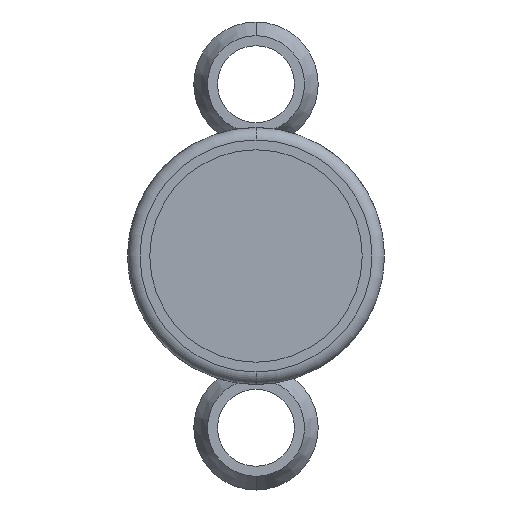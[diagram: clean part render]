
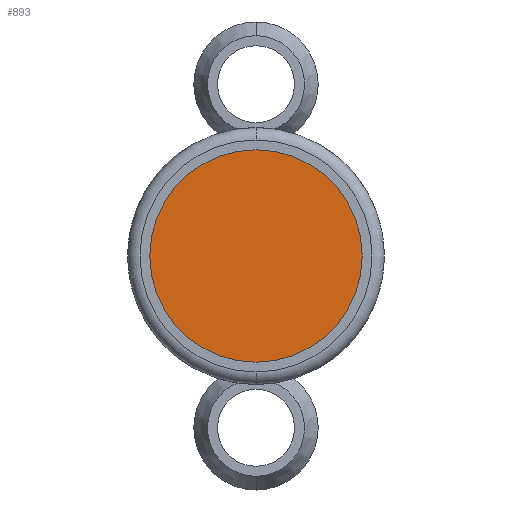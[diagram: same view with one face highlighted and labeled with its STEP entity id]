
A CAD part, front view. The second image highlights one B-rep face of the part: STEP entity #893.
In plain terms, the highlighted planar face has unit normal (0, -1, 0).
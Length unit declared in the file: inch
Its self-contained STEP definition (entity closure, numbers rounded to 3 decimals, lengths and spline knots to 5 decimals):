
#141 = CARTESIAN_POINT ( 'NONE',  ( 0., -0.555, 0. ) ) ;
#225 = CIRCLE ( 'NONE', #1495, 0.5175 ) ;
#321 = DIRECTION ( 'NONE',  ( 0., -1., 0. ) ) ;
#380 = AXIS2_PLACEMENT_3D ( 'NONE', #978, #321, #1923 ) ;
#444 = EDGE_CURVE ( 'NONE', #1436, #891, #677, .T. ) ;
#456 = DIRECTION ( 'NONE',  ( 0., -1., 0. ) ) ;
#581 = CARTESIAN_POINT ( 'NONE',  ( 0., -0.555, -0.5175 ) ) ;
#632 = CARTESIAN_POINT ( 'NONE',  ( 0., -0.555, 0.5175 ) ) ;
#677 = CIRCLE ( 'NONE', #380, 0.5175 ) ;
#698 = FACE_OUTER_BOUND ( 'NONE', #803, .T. ) ;
#704 = AXIS2_PLACEMENT_3D ( 'NONE', #141, #456, #1582 ) ;
#803 = EDGE_LOOP ( 'NONE', ( #1811, #1796 ) ) ;
#834 = DIRECTION ( 'NONE',  ( 0., -1., 0. ) ) ;
#891 = VERTEX_POINT ( 'NONE', #632 ) ;
#893 = ADVANCED_FACE ( 'NONE', ( #698 ), #1740, .T. ) ;
#978 = CARTESIAN_POINT ( 'NONE',  ( 0., -0.555, 0. ) ) ;
#1236 = EDGE_CURVE ( 'NONE', #891, #1436, #225, .T. ) ;
#1436 = VERTEX_POINT ( 'NONE', #581 ) ;
#1495 = AXIS2_PLACEMENT_3D ( 'NONE', #1636, #834, #1961 ) ;
#1582 = DIRECTION ( 'NONE',  ( 0., 0., -1. ) ) ;
#1636 = CARTESIAN_POINT ( 'NONE',  ( 0., -0.555, 0. ) ) ;
#1740 = PLANE ( 'NONE',  #704 ) ;
#1796 = ORIENTED_EDGE ( 'NONE', *, *, #444, .T. ) ;
#1811 = ORIENTED_EDGE ( 'NONE', *, *, #1236, .T. ) ;
#1923 = DIRECTION ( 'NONE',  ( 0., 0., -1. ) ) ;
#1961 = DIRECTION ( 'NONE',  ( 0., 0., -1. ) ) ;
